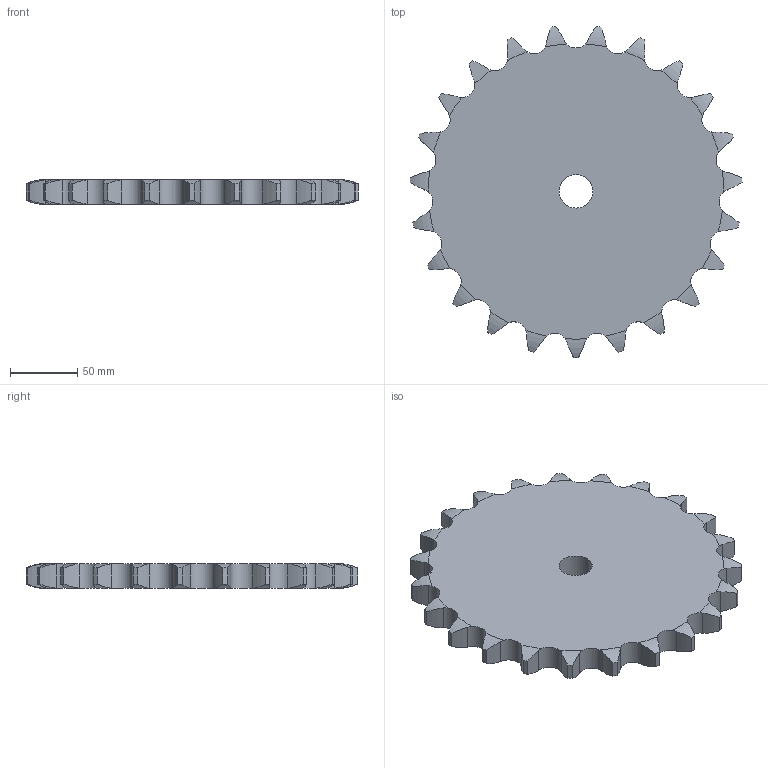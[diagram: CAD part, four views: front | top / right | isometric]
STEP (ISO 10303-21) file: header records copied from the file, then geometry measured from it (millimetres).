
FILE_DESCRIPTION((''),'2;1');
FILE_NAME('500-601-0023_PRT','2021-02-12T',('Brieden'),('Brieden'),'PRO/ENGINEER BY PARAMETRIC TECHNOLOGY CORPORATION, 2010160','PRO/ENGINEER BY PARAMETRIC TECHNOLOGY CORPORATION, 2010160','');
FILE_SCHEMA(('AUTOMOTIVE_DESIGN { 1 0 10303 214 1 1 1 1 }'));
Length unit declared in the file: millimetre
Products named in the file (1): 500-601-0023_PRT
Bounding box: 247.72 x 247.15 x 18.5 mm (x, y, z)
Volume: 737786.7 mm3; surface area: 101213.6 mm2
Topology: 1 solids, 1 shells, 142 faces, 420 edges, 280 vertices
Faces by surface type: cylinder 94, torus 46, plane 2
Entity records: 6966 total; most frequent: CARTESIAN_POINT 2059, ORIENTED_EDGE 840, DIRECTION 662, PRESENTATION_STYLE_ASSIGNMENT 421, STYLED_ITEM 421, CURVE_STYLE 420, EDGE_CURVE 420, AXIS2_PLACEMENT_3D 284
